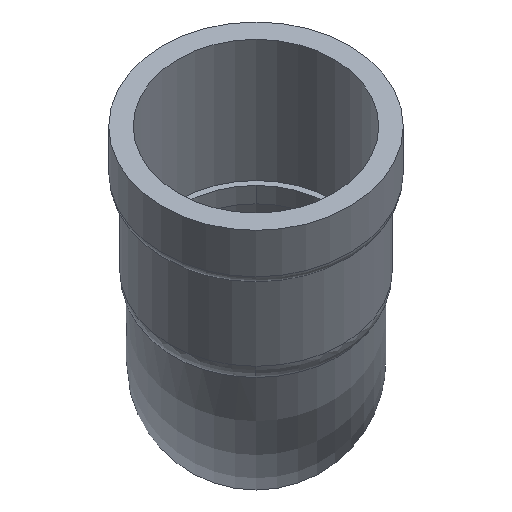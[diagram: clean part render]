
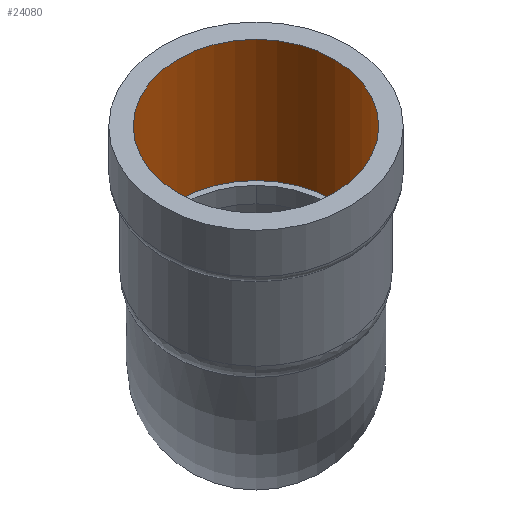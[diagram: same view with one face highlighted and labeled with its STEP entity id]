
A CAD part, left-side view. The second image highlights one B-rep face of the part: STEP entity #24080.
In plain terms, the highlighted cylindrical face has radius 30.75 mm (diameter 61.5 mm), a partial arc.
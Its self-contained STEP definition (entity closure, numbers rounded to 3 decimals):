
#21700=CARTESIAN_POINT('',(32.851,22.377,0.));
#21710=DIRECTION('',(0.,1.,0.));
#21720=DIRECTION('',(0.,0.,-1.));
#21730=AXIS2_PLACEMENT_3D('',#21700,#21710,#21720);
#21740=CIRCLE('',#21730,30.75);
#21750=CARTESIAN_POINT('',(32.851,22.377,-30.75));
#21760=VERTEX_POINT('',#21750);
#21770=CARTESIAN_POINT('',(32.851,22.377,30.75));
#21780=VERTEX_POINT('',#21770);
#21810=EDGE_CURVE('',#21780,#21760,#21740,.T.);
#23660=CARTESIAN_POINT('',(32.851,-27.623,0.));
#23670=DIRECTION('',(0.,1.,0.));
#23680=DIRECTION('',(0.,0.,-1.));
#23690=AXIS2_PLACEMENT_3D('',#23660,#23670,#23680);
#23700=CIRCLE('',#23690,30.75);
#23710=CARTESIAN_POINT('',(32.851,-27.623,-30.75));
#23720=VERTEX_POINT('',#23710);
#23730=CARTESIAN_POINT('',(32.851,-27.623,30.75));
#23740=VERTEX_POINT('',#23730);
#23770=EDGE_CURVE('',#23740,#23720,#23700,.T.);
#23870=CARTESIAN_POINT('',(32.851,6.957,0.));
#23880=DIRECTION('',(0.,1.,0.));
#23890=DIRECTION('',(0.,0.,-1.));
#23900=AXIS2_PLACEMENT_3D('',#23870,#23880,#23890);
#23910=CYLINDRICAL_SURFACE('',#23900,30.75);
#23920=CARTESIAN_POINT('',(32.851,6.957,30.75));
#23930=DIRECTION('',(0.,1.,0.));
#23940=VECTOR('',#23930,1.);
#23950=LINE('',#23920,#23940);
#23960=EDGE_CURVE('',#23740,#21780,#23950,.T.);
#23970=ORIENTED_EDGE('',*,*,#23960,.T.);
#23980=ORIENTED_EDGE('',*,*,#23770,.F.);
#23990=CARTESIAN_POINT('',(32.851,6.957,-30.75));
#24000=DIRECTION('',(0.,1.,0.));
#24010=VECTOR('',#24000,1.);
#24020=LINE('',#23990,#24010);
#24030=EDGE_CURVE('',#23720,#21760,#24020,.T.);
#24040=ORIENTED_EDGE('',*,*,#24030,.F.);
#24050=ORIENTED_EDGE('',*,*,#21810,.T.);
#24060=EDGE_LOOP('',(#24050,#24040,#23980,#23970));
#24070=FACE_OUTER_BOUND('',#24060,.T.);
#24080=ADVANCED_FACE('',(#24070),#23910,.F.);
